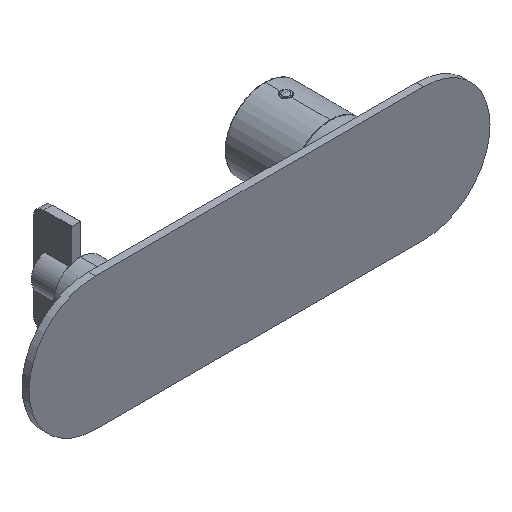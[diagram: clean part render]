
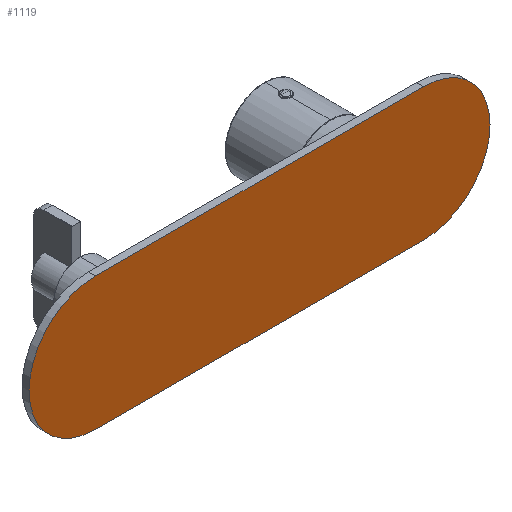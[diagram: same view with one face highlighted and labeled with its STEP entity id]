
A CAD part, isometric view. The second image highlights one B-rep face of the part: STEP entity #1119.
In plain terms, the highlighted planar face has unit normal (0, -1, 0).
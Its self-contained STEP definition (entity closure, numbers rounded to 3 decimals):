
#242=CARTESIAN_POINT('',(-92.5,0.,0.));
#243=DIRECTION('',(0.,1.,0.));
#244=DIRECTION('',(0.,0.,-1.));
#245=AXIS2_PLACEMENT_3D('',#242,#243,#244);
#247=DIRECTION('',(1.,0.,0.));
#248=VECTOR('',#247,185.);
#249=CARTESIAN_POINT('',(-92.5,0.,37.5));
#250=LINE('',#249,#248);
#251=CARTESIAN_POINT('',(92.5,0.,0.));
#252=DIRECTION('',(0.,1.,0.));
#253=DIRECTION('',(0.,0.,1.));
#254=AXIS2_PLACEMENT_3D('',#251,#252,#253);
#256=DIRECTION('',(-1.,0.,0.));
#257=VECTOR('',#256,185.);
#258=CARTESIAN_POINT('',(92.5,0.,-37.5));
#259=LINE('',#258,#257);
#475=CARTESIAN_POINT('',(-92.5,0.,-37.5));
#476=CARTESIAN_POINT('',(-92.5,0.,37.5));
#477=VERTEX_POINT('',#475);
#478=VERTEX_POINT('',#476);
#479=CARTESIAN_POINT('',(92.5,0.,37.5));
#480=VERTEX_POINT('',#479);
#481=CARTESIAN_POINT('',(92.5,0.,-37.5));
#482=VERTEX_POINT('',#481);
#1105=CARTESIAN_POINT('',(65.,0.,0.));
#1106=DIRECTION('',(0.,1.,0.));
#1107=DIRECTION('',(1.,0.,0.));
#1108=AXIS2_PLACEMENT_3D('',#1105,#1106,#1107);
#1109=PLANE('',#1108);
#1110=ORIENTED_EDGE('',*,*,#1088,.T.);
#1112=ORIENTED_EDGE('',*,*,#1111,.T.);
#1114=ORIENTED_EDGE('',*,*,#1113,.T.);
#1116=ORIENTED_EDGE('',*,*,#1115,.T.);
#1117=EDGE_LOOP('',(#1110,#1112,#1114,#1116));
#1118=FACE_OUTER_BOUND('',#1117,.F.);
#246=CIRCLE('',#245,37.5);
#255=CIRCLE('',#254,37.5);
#1088=EDGE_CURVE('',#477,#478,#246,.T.);
#1111=EDGE_CURVE('',#478,#480,#250,.T.);
#1113=EDGE_CURVE('',#480,#482,#255,.T.);
#1115=EDGE_CURVE('',#482,#477,#259,.T.);
#1119=ADVANCED_FACE('',(#1118),#1109,.F.);
